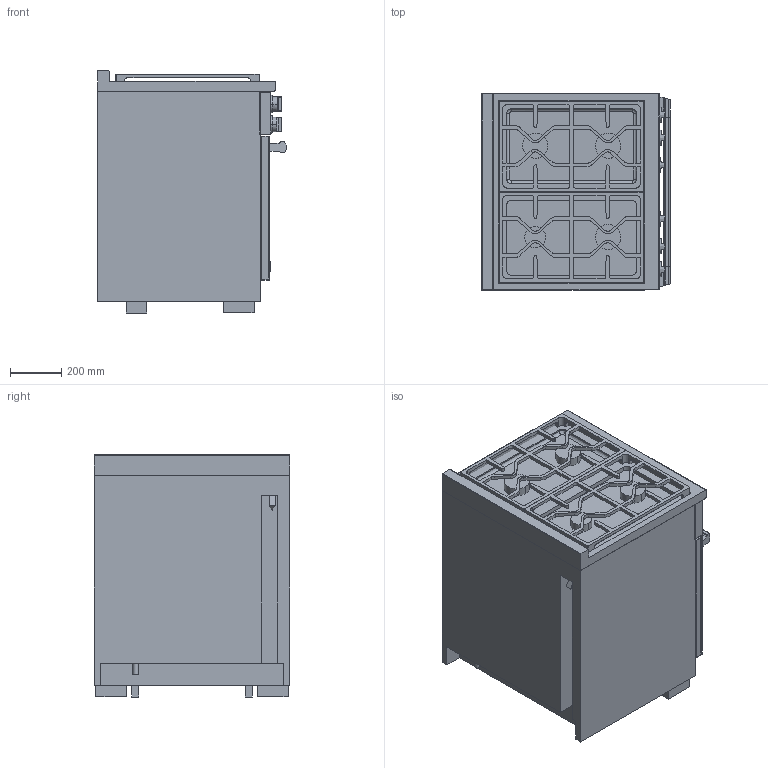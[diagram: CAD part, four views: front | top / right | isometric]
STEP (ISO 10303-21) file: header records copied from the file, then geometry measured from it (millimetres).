
FILE_DESCRIPTION(/* description */ (''),/* implementation_level */ '2;1');
FILE_NAME(/* name */ '25112451USA_HR1124G_CLST',/* time_stamp */ '2014-08-14T11:36:19+02:00',/* author */ (''),/* organization */ (''),/* preprocessor_version */ 'ST-DEVELOPER v10',/* originating_system */ '',/* authorisation */ '');
FILE_SCHEMA (('AUTOMOTIVE_DESIGN_CC2'));
Length unit declared in the file: millimetre
Products named in the file (1): 1
Bounding box: 734.75 x 762 x 942.07 mm (x, y, z)
Volume: 296326850 mm3; surface area: 9561671.8 mm2
Topology: 83 solids, 84 shells, 935 faces, 2288 edges, 1506 vertices
Faces by surface type: bspline 935
Entity records: 45363 total; most frequent: CARTESIAN_POINT 30437, ORIENTED_EDGE 4560, EDGE_CURVE 2282, B_SPLINE_CURVE_WITH_KNOTS 2032, VERTEX_POINT 1506, EDGE_LOOP 959, ADVANCED_FACE 935, FACE_OUTER_BOUND 935
